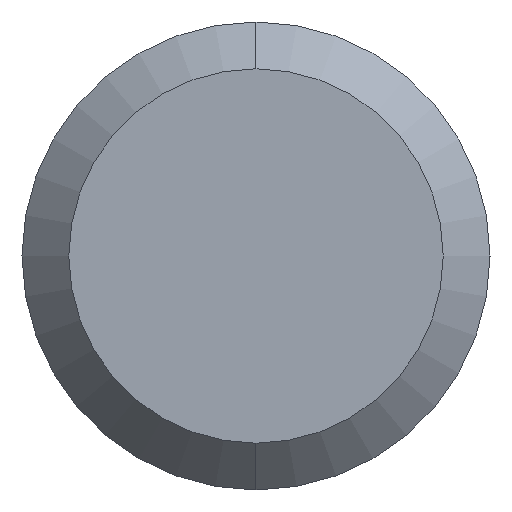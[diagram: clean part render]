
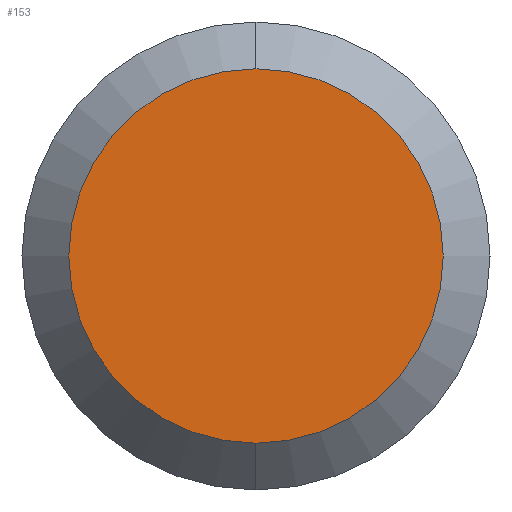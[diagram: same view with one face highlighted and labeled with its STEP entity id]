
A CAD part, left-side view. The second image highlights one B-rep face of the part: STEP entity #153.
In plain terms, the highlighted planar face has unit normal (-1, 0, 0).
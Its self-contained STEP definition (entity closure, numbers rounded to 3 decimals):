
#28 = CARTESIAN_POINT ( 'NONE',  ( 0., 0., 0. ) ) ;
#49 = EDGE_CURVE ( 'NONE', #90, #121, #55, .T. ) ;
#50 = CARTESIAN_POINT ( 'NONE',  ( 0., 0., -1.6 ) ) ;
#55 = CIRCLE ( 'NONE', #91, 1.6 ) ;
#58 = DIRECTION ( 'NONE',  ( -1., 0., 0. ) ) ;
#72 = FACE_OUTER_BOUND ( 'NONE', #235, .T. ) ;
#90 = VERTEX_POINT ( 'NONE', #50 ) ;
#91 = AXIS2_PLACEMENT_3D ( 'NONE', #220, #388, #157 ) ;
#94 = DIRECTION ( 'NONE',  ( 0., 0., -1. ) ) ;
#121 = VERTEX_POINT ( 'NONE', #315 ) ;
#137 = CARTESIAN_POINT ( 'NONE',  ( 0., 0., 0. ) ) ;
#153 = ADVANCED_FACE ( 'NONE', ( #72 ), #330, .F. ) ;
#157 = DIRECTION ( 'NONE',  ( 0., 0., 1. ) ) ;
#168 = AXIS2_PLACEMENT_3D ( 'NONE', #137, #58, #199 ) ;
#176 = AXIS2_PLACEMENT_3D ( 'NONE', #28, #267, #94 ) ;
#193 = CIRCLE ( 'NONE', #168, 1.6 ) ;
#199 = DIRECTION ( 'NONE',  ( 0., 0., 1. ) ) ;
#220 = CARTESIAN_POINT ( 'NONE',  ( 0., 0., 0. ) ) ;
#235 = EDGE_LOOP ( 'NONE', ( #264, #316 ) ) ;
#264 = ORIENTED_EDGE ( 'NONE', *, *, #49, .T. ) ;
#267 = DIRECTION ( 'NONE',  ( 1., 0., 0. ) ) ;
#315 = CARTESIAN_POINT ( 'NONE',  ( 0., 0., 1.6 ) ) ;
#316 = ORIENTED_EDGE ( 'NONE', *, *, #332, .T. ) ;
#330 = PLANE ( 'NONE',  #176 ) ;
#332 = EDGE_CURVE ( 'NONE', #121, #90, #193, .T. ) ;
#388 = DIRECTION ( 'NONE',  ( -1., 0., 0. ) ) ;
